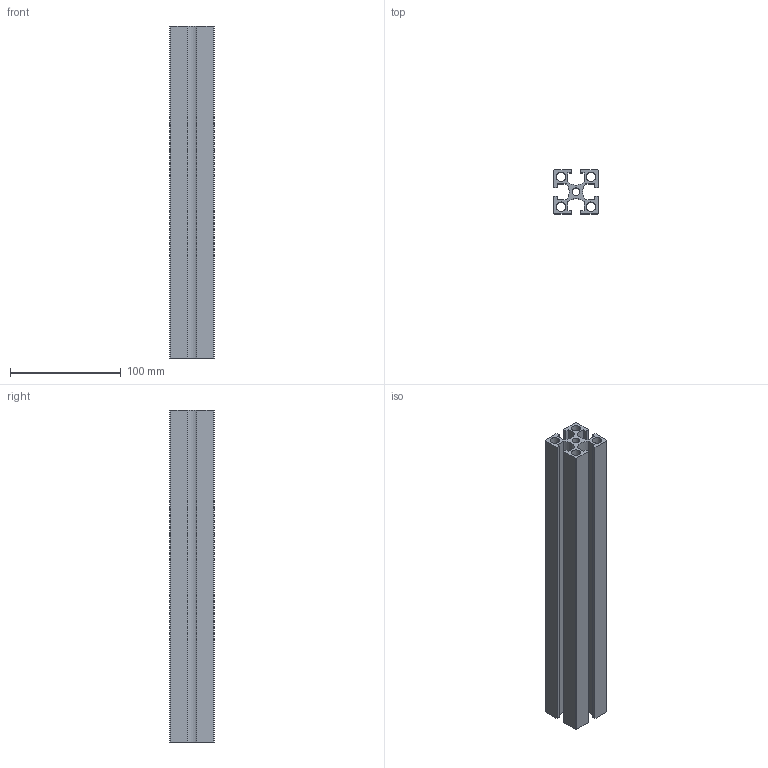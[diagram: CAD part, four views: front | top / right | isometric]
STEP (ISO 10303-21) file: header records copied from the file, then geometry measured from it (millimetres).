
FILE_DESCRIPTION (( 'STEP AP203' ), '1' );
FILE_NAME ('27-CG-4040-8.STEP', '2015-07-07T03:23:22', ( '' ), ( '' ), 'SwSTEP 2.0', 'SolidWorks 2013', '' );
FILE_SCHEMA (( 'CONFIG_CONTROL_DESIGN' ));
Length unit declared in the file: millimetre
Products named in the file (1): 27-CG-4040-8
Bounding box: 40 x 40 x 300 mm (x, y, z)
Volume: 194345.3 mm3; surface area: 130599.8 mm2
Topology: 1 solids, 1 shells, 53 faces, 153 edges, 102 vertices
Faces by surface type: plane 34, cylinder 19
Entity records: 1842 total; most frequent: CARTESIAN_POINT 309, ORIENTED_EDGE 306, DIRECTION 299, EDGE_CURVE 153, LINE 115, VECTOR 115, VERTEX_POINT 102, AXIS2_PLACEMENT_3D 92
